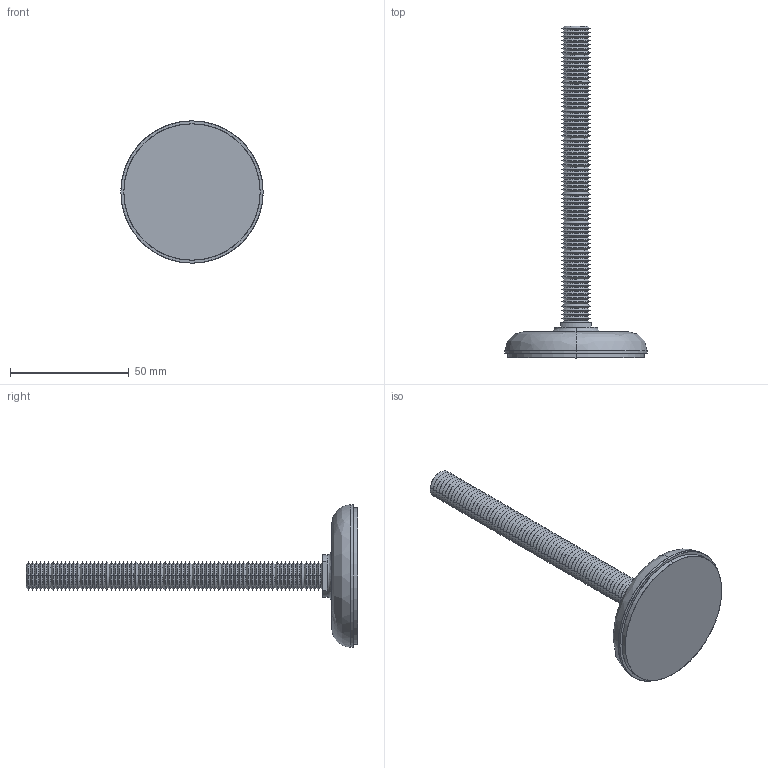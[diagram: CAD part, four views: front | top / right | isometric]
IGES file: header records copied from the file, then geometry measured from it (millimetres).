
Start section: SolidWorks IGES file using analytic representation for surfaces
Global section: file name: C:\Documents and Settings\IANO\Desktop\Temp File\Process pending\EXISTING\34780_v2\34780_v2_20170626_IGES\34780.W0126.igs; native system: SolidWorks 2009; preprocessor: SolidWorks 2009; author: IANO; date: 170626.122437; units: millimetre
Bounding box: 60 x 140 x 60 mm (x, y, z)
Surface area: 27695.4 mm2 (no closed solid volume)
Topology: 0 solids, 0 shells, 352 faces, 2322 edges, 2322 vertices
Faces by surface type: revolution 324, bspline 28
